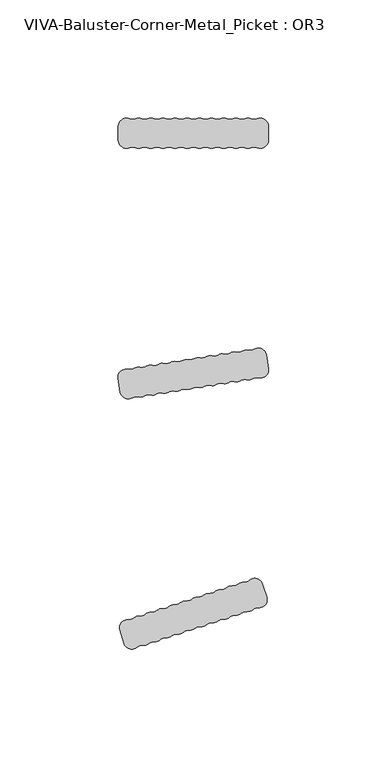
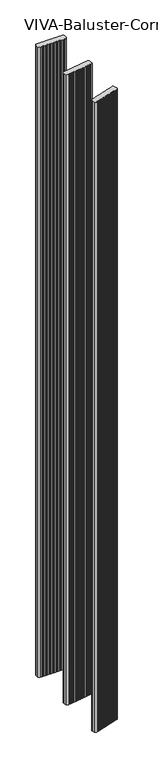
"""IFC4 building model written with IfcOpenShell, lengths in millimetres: railing geometry, VIVA-Baluster-Corner-Metal_Picket : OR3."""

from ifc_helpers import new_model, si_unit, point, frame, frame_2d, origin, place, context, project, spatial, polyline, circle_curve, trimmed, segment, composite_curve, outline, extrude, source, transform, mapped, element, save


def viva_baluster_corner_metal_picket_or3_0ca7091a(model_context):
    return source(origin(), model_context, "Body", "SweptSolid", [
        extrude(outline(composite_curve([segment(polyline([(54.1877137, 92.323752), (55.9877943, 86.7836736)]), True, "CONTINUOUS"), segment(trimmed(circle_curve(frame_2d((52.7186246, 85.721456)), 3.4374084), [point((55.9877943, 86.7836736))], [point((52.4796392, 82.2923653))], False, "CARTESIAN"), True, "CONTINUOUS"), segment(trimmed(circle_curve(frame_2d((52.2406537, 78.8632747)), 3.4374084), [point((52.4796392, 82.2923653))], [point((50.0317415, 81.4969951))], True, "CARTESIAN"), True, "CONTINUOUS"), segment(trimmed(circle_curve(frame_2d((47.8228292, 84.1307156)), 3.4374084), [point((50.0317415, 81.4969951))], [point((47.5838438, 80.701625))], False, "CARTESIAN"), True, "CONTINUOUS"), segment(trimmed(circle_curve(frame_2d((47.3448583, 77.2725343)), 3.4374084), [point((47.5838438, 80.701625))], [point((45.1359461, 79.9062548))], True, "CARTESIAN"), True, "CONTINUOUS"), segment(trimmed(circle_curve(frame_2d((42.9270338, 82.5399753)), 3.4374084), [point((45.1359461, 79.9062548))], [point((42.6880484, 79.1108846))], False, "CARTESIAN"), True, "CONTINUOUS"), segment(trimmed(circle_curve(frame_2d((42.4490629, 75.681794)), 3.4374084), [point((42.6880484, 79.1108846))], [point((40.2401507, 78.3155144))], True, "CARTESIAN"), True, "CONTINUOUS"), segment(trimmed(circle_curve(frame_2d((38.0312384, 80.9492349)), 3.4374084), [point((40.2401507, 78.3155144))], [point((37.792253, 77.5201443))], False, "CARTESIAN"), True, "CONTINUOUS"), segment(trimmed(circle_curve(frame_2d((37.5532675, 74.0910536)), 3.4374084), [point((37.792253, 77.5201443))], [point((35.3443553, 76.7247741))], True, "CARTESIAN"), True, "CONTINUOUS"), segment(trimmed(circle_curve(frame_2d((33.135443, 79.3584946)), 3.4374084), [point((35.3443553, 76.7247741))], [point((32.8964576, 75.9294039))], False, "CARTESIAN"), True, "CONTINUOUS"), segment(trimmed(circle_curve(frame_2d((32.6574721, 72.5003133)), 3.4374084), [point((32.8964576, 75.9294039))], [point((30.4485599, 75.1340337))], True, "CARTESIAN"), True, "CONTINUOUS"), segment(trimmed(circle_curve(frame_2d((28.2396476, 77.7677542)), 3.4374084), [point((30.4485599, 75.1340337))], [point((28.0006622, 74.3386636))], False, "CARTESIAN"), True, "CONTINUOUS"), segment(trimmed(circle_curve(frame_2d((27.7616767, 70.9095729)), 3.4374084), [point((28.0006622, 74.3386636))], [point((25.5527645, 73.5432934))], True, "CARTESIAN"), True, "CONTINUOUS"), segment(trimmed(circle_curve(frame_2d((23.3438522, 76.1770139)), 3.4374084), [point((25.5527645, 73.5432934))], [point((23.1048668, 72.7479232))], False, "CARTESIAN"), True, "CONTINUOUS"), segment(trimmed(circle_curve(frame_2d((22.8658813, 69.3188326)), 3.4374084), [point((23.1048668, 72.7479232))], [point((20.6569691, 71.952553))], True, "CARTESIAN"), True, "CONTINUOUS"), segment(trimmed(circle_curve(frame_2d((18.4480568, 74.5862735)), 3.4374084), [point((20.6569691, 71.952553))], [point((18.2090714, 71.1571828))], False, "CARTESIAN"), True, "CONTINUOUS"), segment(trimmed(circle_curve(frame_2d((17.9700859, 67.7280922)), 3.4374084), [point((18.2090714, 71.1571828))], [point((15.7611737, 70.3618127))], True, "CARTESIAN"), True, "CONTINUOUS"), segment(trimmed(circle_curve(frame_2d((13.5522614, 72.9955331)), 3.4374084), [point((15.7611737, 70.3618127))], [point((13.313276, 69.5664425))], False, "CARTESIAN"), True, "CONTINUOUS"), segment(trimmed(circle_curve(frame_2d((13.0742905, 66.1373518)), 3.4374084), [point((13.313276, 69.5664425))], [point((10.8653783, 68.7710723))], True, "CARTESIAN"), True, "CONTINUOUS"), segment(trimmed(circle_curve(frame_2d((8.656466, 71.4047928)), 3.4374084), [point((10.8653783, 68.7710723))], [point((8.4174806, 67.9757021))], False, "CARTESIAN"), True, "CONTINUOUS"), segment(trimmed(circle_curve(frame_2d((8.1784951, 64.5466115)), 3.4374084), [point((8.4174806, 67.9757021))], [point((5.9695829, 67.180332))], True, "CARTESIAN"), True, "CONTINUOUS"), segment(trimmed(circle_curve(frame_2d((3.7606706, 69.8140524)), 3.4374084), [point((5.9695829, 67.180332))], [point((3.5216852, 66.3849618))], False, "CARTESIAN"), True, "CONTINUOUS"), segment(trimmed(circle_curve(frame_2d((3.2826997, 62.9558711)), 3.4374084), [point((3.5216852, 66.3849618))], [point((1.0737875, 65.5895916))], True, "CARTESIAN"), True, "CONTINUOUS"), segment(trimmed(circle_curve(frame_2d((-1.1351248, 68.2233121)), 3.4374084), [point((1.0737875, 65.5895916))], [point((-4.4042945, 67.1610945))], False, "CARTESIAN"), True, "CONTINUOUS"), segment(polyline([(-4.4042945, 67.1610945), (-6.204375, 72.7011728)]), True, "CONTINUOUS"), segment(trimmed(circle_curve(frame_2d((-2.9352053, 73.7633905)), 3.4374084), [point((-6.204375, 72.7011728))], [point((-2.6962199, 77.1924811))], False, "CARTESIAN"), True, "CONTINUOUS"), segment(trimmed(circle_curve(frame_2d((-2.4572344, 80.6215718)), 3.4374084), [point((-2.6962199, 77.1924811))], [point((-0.2483222, 77.9878513))], True, "CARTESIAN"), True, "CONTINUOUS"), segment(trimmed(circle_curve(frame_2d((1.9605901, 75.3541308)), 3.4374084), [point((-0.2483222, 77.9878513))], [point((2.1995755, 78.7832215))], False, "CARTESIAN"), True, "CONTINUOUS"), segment(trimmed(circle_curve(frame_2d((2.438561, 82.2123121)), 3.4374084), [point((2.1995755, 78.7832215))], [point((4.6474732, 79.5785916))], True, "CARTESIAN"), True, "CONTINUOUS"), segment(trimmed(circle_curve(frame_2d((6.8563855, 76.9448712)), 3.4374084), [point((4.6474732, 79.5785916))], [point((7.0953709, 80.3739618))], False, "CARTESIAN"), True, "CONTINUOUS"), segment(trimmed(circle_curve(frame_2d((7.3343564, 83.8030525)), 3.4374084), [point((7.0953709, 80.3739618))], [point((9.5432686, 81.169332))], True, "CARTESIAN"), True, "CONTINUOUS"), segment(trimmed(circle_curve(frame_2d((11.7521809, 78.5356115)), 3.4374084), [point((9.5432686, 81.169332))], [point((11.9911663, 81.9647022))], False, "CARTESIAN"), True, "CONTINUOUS"), segment(trimmed(circle_curve(frame_2d((12.2301518, 85.3937928)), 3.4374084), [point((11.9911663, 81.9647022))], [point((14.439064, 82.7600723))], True, "CARTESIAN"), True, "CONTINUOUS"), segment(trimmed(circle_curve(frame_2d((16.6479763, 80.1263519)), 3.4374084), [point((14.439064, 82.7600723))], [point((16.8869617, 83.5554425))], False, "CARTESIAN"), True, "CONTINUOUS"), segment(trimmed(circle_curve(frame_2d((17.1259472, 86.9845332)), 3.4374084), [point((16.8869617, 83.5554425))], [point((19.3348594, 84.3508127))], True, "CARTESIAN"), True, "CONTINUOUS"), segment(trimmed(circle_curve(frame_2d((21.5437717, 81.7170922)), 3.4374084), [point((19.3348594, 84.3508127))], [point((21.7827571, 85.1461829))], False, "CARTESIAN"), True, "CONTINUOUS"), segment(trimmed(circle_curve(frame_2d((22.0217426, 88.5752735)), 3.4374084), [point((21.7827571, 85.1461829))], [point((24.2306548, 85.9415531))], True, "CARTESIAN"), True, "CONTINUOUS"), segment(trimmed(circle_curve(frame_2d((26.4395671, 83.3078326)), 3.4374084), [point((24.2306548, 85.9415531))], [point((26.6785525, 86.7369232))], False, "CARTESIAN"), True, "CONTINUOUS"), segment(trimmed(circle_curve(frame_2d((26.917538, 90.1660139)), 3.4374084), [point((26.6785525, 86.7369232))], [point((29.1264502, 87.5322934))], True, "CARTESIAN"), True, "CONTINUOUS"), segment(trimmed(circle_curve(frame_2d((31.3353625, 84.8985729)), 3.4374084), [point((29.1264502, 87.5322934))], [point((31.5743479, 88.3276636))], False, "CARTESIAN"), True, "CONTINUOUS"), segment(trimmed(circle_curve(frame_2d((31.8133334, 91.7567542)), 3.4374084), [point((31.5743479, 88.3276636))], [point((34.0222456, 89.1230338))], True, "CARTESIAN"), True, "CONTINUOUS"), segment(trimmed(circle_curve(frame_2d((36.2311579, 86.4893133)), 3.4374084), [point((34.0222456, 89.1230338))], [point((36.4701433, 89.9184039))], False, "CARTESIAN"), True, "CONTINUOUS"), segment(trimmed(circle_curve(frame_2d((36.7091288, 93.3474946)), 3.4374084), [point((36.4701433, 89.9184039))], [point((38.918041, 90.7137741))], True, "CARTESIAN"), True, "CONTINUOUS"), segment(trimmed(circle_curve(frame_2d((41.1269533, 88.0800536)), 3.4374084), [point((38.918041, 90.7137741))], [point((41.3659387, 91.5091443))], False, "CARTESIAN"), True, "CONTINUOUS"), segment(trimmed(circle_curve(frame_2d((41.6049242, 94.9382349)), 3.4374084), [point((41.3659387, 91.5091443))], [point((43.8138364, 92.3045145))], True, "CARTESIAN"), True, "CONTINUOUS"), segment(trimmed(circle_curve(frame_2d((46.0227487, 89.670794)), 3.4374084), [point((43.8138364, 92.3045145))], [point((46.2617341, 93.0998846))], False, "CARTESIAN"), True, "CONTINUOUS"), segment(trimmed(circle_curve(frame_2d((46.5007196, 96.5289753)), 3.4374084), [point((46.2617341, 93.0998846))], [point((48.7096318, 93.8952548))], True, "CARTESIAN"), True, "CONTINUOUS"), segment(trimmed(circle_curve(frame_2d((50.9185441, 91.2615344)), 3.4374084), [point((48.7096318, 93.8952548))], [point((54.1877137, 92.323752))], False, "CARTESIAN"), True, "CONTINUOUS")], self_intersect=False)), frame((0.0, 0.0, -245.8945017), z_axis=(0.0, 0.0, 1.0), x_axis=(1.0, 0.0, 0.0)), (0.0, 0.0, 1.0), 1465.0945017),
        extrude(outline(composite_curve([segment(trimmed(circle_curve(frame_2d((52.4000965, 188.6482211)), 3.4374084), [point((50.6303843, 191.5950661))], [point((55.7951848, 189.1859502))], False, "CARTESIAN"), True, "CONTINUOUS"), segment(polyline([(55.7951848, 189.1859502), (56.7064442, 183.4324848)]), True, "CONTINUOUS"), segment(trimmed(circle_curve(frame_2d((53.3113559, 182.8947556)), 3.4374084), [point((56.7064442, 183.4324848))], [point((52.5388848, 179.5452683))], False, "CARTESIAN"), True, "CONTINUOUS"), segment(trimmed(circle_curve(frame_2d((51.7664137, 176.195781)), 3.4374084), [point((52.5388848, 179.5452683))], [point((49.9967015, 179.142626))], True, "CARTESIAN"), True, "CONTINUOUS"), segment(trimmed(circle_curve(frame_2d((48.2269893, 182.089471)), 3.4374084), [point((49.9967015, 179.142626))], [point((47.4545181, 178.7399837))], False, "CARTESIAN"), True, "CONTINUOUS"), segment(trimmed(circle_curve(frame_2d((46.682047, 175.3904965)), 3.4374084), [point((47.4545181, 178.7399837))], [point((44.9123348, 178.3373415))], True, "CARTESIAN"), True, "CONTINUOUS"), segment(trimmed(circle_curve(frame_2d((43.1426226, 181.2841865)), 3.4374084), [point((44.9123348, 178.3373415))], [point((42.3701515, 177.9346992))], False, "CARTESIAN"), True, "CONTINUOUS"), segment(trimmed(circle_curve(frame_2d((41.5976804, 174.5852119)), 3.4374084), [point((42.3701515, 177.9346992))], [point((39.8279682, 177.5320569))], True, "CARTESIAN"), True, "CONTINUOUS"), segment(trimmed(circle_curve(frame_2d((38.058256, 180.4789019)), 3.4374084), [point((39.8279682, 177.5320569))], [point((37.2857848, 177.1294146))], False, "CARTESIAN"), True, "CONTINUOUS"), segment(trimmed(circle_curve(frame_2d((36.5133137, 173.7799273)), 3.4374084), [point((37.2857848, 177.1294146))], [point((34.7436015, 176.7267723))], True, "CARTESIAN"), True, "CONTINUOUS"), segment(trimmed(circle_curve(frame_2d((32.9738893, 179.6736173)), 3.4374084), [point((34.7436015, 176.7267723))], [point((32.2014182, 176.32413))], False, "CARTESIAN"), True, "CONTINUOUS"), segment(trimmed(circle_curve(frame_2d((31.4289471, 172.9746428)), 3.4374084), [point((32.2014182, 176.32413))], [point((29.6592349, 175.9214878))], True, "CARTESIAN"), True, "CONTINUOUS"), segment(trimmed(circle_curve(frame_2d((27.8895227, 178.8683328)), 3.4374084), [point((29.6592349, 175.9214878))], [point((27.1170515, 175.5188455))], False, "CARTESIAN"), True, "CONTINUOUS"), segment(trimmed(circle_curve(frame_2d((26.3445804, 172.1693582)), 3.4374084), [point((27.1170515, 175.5188455))], [point((24.5748682, 175.1162032))], True, "CARTESIAN"), True, "CONTINUOUS"), segment(trimmed(circle_curve(frame_2d((22.805156, 178.0630482)), 3.4374084), [point((24.5748682, 175.1162032))], [point((22.0326849, 174.7135609))], False, "CARTESIAN"), True, "CONTINUOUS"), segment(trimmed(circle_curve(frame_2d((21.2602138, 171.3640736)), 3.4374084), [point((22.0326849, 174.7135609))], [point((19.4905016, 174.3109186))], True, "CARTESIAN"), True, "CONTINUOUS"), segment(trimmed(circle_curve(frame_2d((17.7207894, 177.2577636)), 3.4374084), [point((19.4905016, 174.3109186))], [point((16.9483182, 173.9082764))], False, "CARTESIAN"), True, "CONTINUOUS"), segment(trimmed(circle_curve(frame_2d((16.1758471, 170.5587891)), 3.4374084), [point((16.9483182, 173.9082764))], [point((14.4061349, 173.5056341))], True, "CARTESIAN"), True, "CONTINUOUS"), segment(trimmed(circle_curve(frame_2d((12.6364227, 176.4524791)), 3.4374084), [point((14.4061349, 173.5056341))], [point((11.8639516, 173.1029918))], False, "CARTESIAN"), True, "CONTINUOUS"), segment(trimmed(circle_curve(frame_2d((11.0914805, 169.7535045)), 3.4374084), [point((11.8639516, 173.1029918))], [point((9.3217683, 172.7003495))], True, "CARTESIAN"), True, "CONTINUOUS"), segment(trimmed(circle_curve(frame_2d((7.5520561, 175.6471945)), 3.4374084), [point((9.3217683, 172.7003495))], [point((6.7795849, 172.2977072))], False, "CARTESIAN"), True, "CONTINUOUS"), segment(trimmed(circle_curve(frame_2d((6.0071138, 168.9482199)), 3.4374084), [point((6.7795849, 172.2977072))], [point((4.2374016, 171.8950649))], True, "CARTESIAN"), True, "CONTINUOUS"), segment(trimmed(circle_curve(frame_2d((2.4676894, 174.8419099)), 3.4374084), [point((4.2374016, 171.8950649))], [point((1.6952183, 171.4924227))], False, "CARTESIAN"), True, "CONTINUOUS"), segment(trimmed(circle_curve(frame_2d((0.9227472, 168.1429354)), 3.4374084), [point((1.6952183, 171.4924227))], [point((-0.846965, 171.0897804))], True, "CARTESIAN"), True, "CONTINUOUS"), segment(trimmed(circle_curve(frame_2d((-2.6166772, 174.0366254)), 3.4374084), [point((-0.846965, 171.0897804))], [point((-6.0117655, 173.4988962))], False, "CARTESIAN"), True, "CONTINUOUS"), segment(polyline([(-6.0117655, 173.4988962), (-6.9230249, 179.2523617)]), True, "CONTINUOUS"), segment(trimmed(circle_curve(frame_2d((-3.5279366, 179.7900908)), 3.4374084), [point((-6.9230249, 179.2523617))], [point((-2.7554655, 183.1395781))], False, "CARTESIAN"), True, "CONTINUOUS"), segment(trimmed(circle_curve(frame_2d((-1.9829944, 186.4890654)), 3.4374084), [point((-2.7554655, 183.1395781))], [point((-0.2132822, 183.5422204))], True, "CARTESIAN"), True, "CONTINUOUS"), segment(trimmed(circle_curve(frame_2d((1.55643, 180.5953754)), 3.4374084), [point((-0.2132822, 183.5422204))], [point((2.3289011, 183.9448627))], False, "CARTESIAN"), True, "CONTINUOUS"), segment(trimmed(circle_curve(frame_2d((3.1013723, 187.29435)), 3.4374084), [point((2.3289011, 183.9448627))], [point((4.8710845, 184.347505))], True, "CARTESIAN"), True, "CONTINUOUS"), segment(trimmed(circle_curve(frame_2d((6.6407967, 181.40066)), 3.4374084), [point((4.8710845, 184.347505))], [point((7.4132678, 184.7501473))], False, "CARTESIAN"), True, "CONTINUOUS"), segment(trimmed(circle_curve(frame_2d((8.1857389, 188.0996345)), 3.4374084), [point((7.4132678, 184.7501473))], [point((9.9554511, 185.1527895))], True, "CARTESIAN"), True, "CONTINUOUS"), segment(trimmed(circle_curve(frame_2d((11.7251633, 182.2059445)), 3.4374084), [point((9.9554511, 185.1527895))], [point((12.4976344, 185.5554318))], False, "CARTESIAN"), True, "CONTINUOUS"), segment(trimmed(circle_curve(frame_2d((13.2701056, 188.9049191)), 3.4374084), [point((12.4976344, 185.5554318))], [point((15.0398178, 185.9580741))], True, "CARTESIAN"), True, "CONTINUOUS"), segment(trimmed(circle_curve(frame_2d((16.80953, 183.0112291)), 3.4374084), [point((15.0398178, 185.9580741))], [point((17.5820011, 186.3607164))], False, "CARTESIAN"), True, "CONTINUOUS"), segment(trimmed(circle_curve(frame_2d((18.3544722, 189.7102037)), 3.4374084), [point((17.5820011, 186.3607164))], [point((20.1241844, 186.7633587))], True, "CARTESIAN"), True, "CONTINUOUS"), segment(trimmed(circle_curve(frame_2d((21.8938966, 183.8165137)), 3.4374084), [point((20.1241844, 186.7633587))], [point((22.6663677, 187.166001))], False, "CARTESIAN"), True, "CONTINUOUS"), segment(trimmed(circle_curve(frame_2d((23.4388389, 190.5154882)), 3.4374084), [point((22.6663677, 187.166001))], [point((25.2085511, 187.5686432))], True, "CARTESIAN"), True, "CONTINUOUS"), segment(trimmed(circle_curve(frame_2d((26.9782633, 184.6217982)), 3.4374084), [point((25.2085511, 187.5686432))], [point((27.7507344, 187.9712855))], False, "CARTESIAN"), True, "CONTINUOUS"), segment(trimmed(circle_curve(frame_2d((28.5232055, 191.3207728)), 3.4374084), [point((27.7507344, 187.9712855))], [point((30.2929177, 188.3739278))], True, "CARTESIAN"), True, "CONTINUOUS"), segment(trimmed(circle_curve(frame_2d((32.0626299, 185.4270828)), 3.4374084), [point((30.2929177, 188.3739278))], [point((32.835101, 188.7765701))], False, "CARTESIAN"), True, "CONTINUOUS"), segment(trimmed(circle_curve(frame_2d((33.6075722, 192.1260574)), 3.4374084), [point((32.835101, 188.7765701))], [point((35.3772844, 189.1792124))], True, "CARTESIAN"), True, "CONTINUOUS"), segment(trimmed(circle_curve(frame_2d((37.1469966, 186.2323674)), 3.4374084), [point((35.3772844, 189.1792124))], [point((37.9194677, 189.5818547))], False, "CARTESIAN"), True, "CONTINUOUS"), segment(trimmed(circle_curve(frame_2d((38.6919388, 192.9313419)), 3.4374084), [point((37.9194677, 189.5818547))], [point((40.461651, 189.9844969))], True, "CARTESIAN"), True, "CONTINUOUS"), segment(trimmed(circle_curve(frame_2d((42.2313632, 187.0376519)), 3.4374084), [point((40.461651, 189.9844969))], [point((43.0038343, 190.3871392))], False, "CARTESIAN"), True, "CONTINUOUS"), segment(trimmed(circle_curve(frame_2d((43.7763055, 193.7366265)), 3.4374084), [point((43.0038343, 190.3871392))], [point((45.5460177, 190.7897815))], True, "CARTESIAN"), True, "CONTINUOUS"), segment(trimmed(circle_curve(frame_2d((47.3157299, 187.8429365)), 3.4374084), [point((45.5460177, 190.7897815))], [point((48.088201, 191.1924238))], False, "CARTESIAN"), True, "CONTINUOUS"), segment(trimmed(circle_curve(frame_2d((48.8606721, 194.5419111)), 3.4374084), [point((48.088201, 191.1924238))], [point((50.6303843, 191.5950661))], True, "CARTESIAN"), True, "CONTINUOUS")], self_intersect=False)), frame((0.0, 0.0, -245.8945017), z_axis=(0.0, 0.0, 1.0), x_axis=(1.0, 0.0, 0.0)), (0.0, 0.0, 1.0), 1465.0945017),
        extrude(outline(composite_curve([segment(trimmed(circle_curve(frame_2d((53.2043012, 285.8550148)), 3.4374084), [point((51.9173652, 289.0424232))], [point((56.6417096, 285.8550148))], False, "CARTESIAN"), True, "CONTINUOUS"), segment(polyline([(56.6417096, 285.8550148), (56.6417096, 280.0298317)]), True, "CONTINUOUS"), segment(trimmed(circle_curve(frame_2d((53.2043012, 280.0298317)), 3.4374084), [point((56.6417096, 280.0298317))], [point((51.9173652, 276.8424232))], False, "CARTESIAN"), True, "CONTINUOUS"), segment(trimmed(circle_curve(frame_2d((50.6304292, 273.6550148)), 3.4374084), [point((51.9173652, 276.8424232))], [point((49.3434933, 276.8424232))], True, "CARTESIAN"), True, "CONTINUOUS"), segment(trimmed(circle_curve(frame_2d((48.0565573, 280.0298317)), 3.4374084), [point((49.3434933, 276.8424232))], [point((46.7696213, 276.8424232))], False, "CARTESIAN"), True, "CONTINUOUS"), segment(trimmed(circle_curve(frame_2d((45.4826853, 273.6550148)), 3.4374084), [point((46.7696213, 276.8424232))], [point((44.1957493, 276.8424232))], True, "CARTESIAN"), True, "CONTINUOUS"), segment(trimmed(circle_curve(frame_2d((42.9088134, 280.0298317)), 3.4374084), [point((44.1957493, 276.8424232))], [point((41.6218774, 276.8424232))], False, "CARTESIAN"), True, "CONTINUOUS"), segment(trimmed(circle_curve(frame_2d((40.3349414, 273.6550148)), 3.4374084), [point((41.6218774, 276.8424232))], [point((39.0480054, 276.8424232))], True, "CARTESIAN"), True, "CONTINUOUS"), segment(trimmed(circle_curve(frame_2d((37.7610694, 280.0298317)), 3.4374084), [point((39.0480054, 276.8424232))], [point((36.4741335, 276.8424232))], False, "CARTESIAN"), True, "CONTINUOUS"), segment(trimmed(circle_curve(frame_2d((35.1871975, 273.6550148)), 3.4374084), [point((36.4741335, 276.8424232))], [point((33.9002615, 276.8424232))], True, "CARTESIAN"), True, "CONTINUOUS"), segment(trimmed(circle_curve(frame_2d((32.6133255, 280.0298317)), 3.4374084), [point((33.9002615, 276.8424232))], [point((31.3263895, 276.8424232))], False, "CARTESIAN"), True, "CONTINUOUS"), segment(trimmed(circle_curve(frame_2d((30.0394536, 273.6550148)), 3.4374084), [point((31.3263895, 276.8424232))], [point((28.7525176, 276.8424232))], True, "CARTESIAN"), True, "CONTINUOUS"), segment(trimmed(circle_curve(frame_2d((27.4655816, 280.0298317)), 3.4374084), [point((28.7525176, 276.8424232))], [point((26.1786456, 276.8424232))], False, "CARTESIAN"), True, "CONTINUOUS"), segment(trimmed(circle_curve(frame_2d((24.8917096, 273.6550148)), 3.4374084), [point((26.1786456, 276.8424232))], [point((23.6047737, 276.8424232))], True, "CARTESIAN"), True, "CONTINUOUS"), segment(trimmed(circle_curve(frame_2d((22.3178377, 280.0298317)), 3.4374084), [point((23.6047737, 276.8424232))], [point((21.0309017, 276.8424232))], False, "CARTESIAN"), True, "CONTINUOUS"), segment(trimmed(circle_curve(frame_2d((19.7439657, 273.6550148)), 3.4374084), [point((21.0309017, 276.8424232))], [point((18.4570297, 276.8424232))], True, "CARTESIAN"), True, "CONTINUOUS"), segment(trimmed(circle_curve(frame_2d((17.1700938, 280.0298317)), 3.4374084), [point((18.4570297, 276.8424232))], [point((15.8831578, 276.8424232))], False, "CARTESIAN"), True, "CONTINUOUS"), segment(trimmed(circle_curve(frame_2d((14.5962218, 273.6550148)), 3.4374084), [point((15.8831578, 276.8424232))], [point((13.3092858, 276.8424232))], True, "CARTESIAN"), True, "CONTINUOUS"), segment(trimmed(circle_curve(frame_2d((12.0223498, 280.0298317)), 3.4374084), [point((13.3092858, 276.8424232))], [point((10.7354138, 276.8424232))], False, "CARTESIAN"), True, "CONTINUOUS"), segment(trimmed(circle_curve(frame_2d((9.4484779, 273.6550148)), 3.4374084), [point((10.7354138, 276.8424232))], [point((8.1615419, 276.8424232))], True, "CARTESIAN"), True, "CONTINUOUS"), segment(trimmed(circle_curve(frame_2d((6.8746059, 280.0298317)), 3.4374084), [point((8.1615419, 276.8424232))], [point((5.5876699, 276.8424232))], False, "CARTESIAN"), True, "CONTINUOUS"), segment(trimmed(circle_curve(frame_2d((4.3007339, 273.6550148)), 3.4374084), [point((5.5876699, 276.8424232))], [point((3.013798, 276.8424232))], True, "CARTESIAN"), True, "CONTINUOUS"), segment(trimmed(circle_curve(frame_2d((1.726862, 280.0298317)), 3.4374084), [point((3.013798, 276.8424232))], [point((0.439926, 276.8424232))], False, "CARTESIAN"), True, "CONTINUOUS"), segment(trimmed(circle_curve(frame_2d((-0.84701, 273.6550148)), 3.4374084), [point((0.439926, 276.8424232))], [point((-2.133946, 276.8424232))], True, "CARTESIAN"), True, "CONTINUOUS"), segment(trimmed(circle_curve(frame_2d((-3.4208819, 280.0298317)), 3.4374084), [point((-2.133946, 276.8424232))], [point((-6.8582904, 280.0298317))], False, "CARTESIAN"), True, "CONTINUOUS"), segment(polyline([(-6.8582904, 280.0298317), (-6.8582904, 285.8550148)]), True, "CONTINUOUS"), segment(trimmed(circle_curve(frame_2d((-3.4208819, 285.8550148)), 3.4374084), [point((-6.8582904, 285.8550148))], [point((-2.133946, 289.0424232))], False, "CARTESIAN"), True, "CONTINUOUS"), segment(trimmed(circle_curve(frame_2d((-0.84701, 292.2298316)), 3.4374084), [point((-2.133946, 289.0424232))], [point((0.439926, 289.0424232))], True, "CARTESIAN"), True, "CONTINUOUS"), segment(trimmed(circle_curve(frame_2d((1.726862, 285.8550148)), 3.4374084), [point((0.439926, 289.0424232))], [point((3.013798, 289.0424232))], False, "CARTESIAN"), True, "CONTINUOUS"), segment(trimmed(circle_curve(frame_2d((4.3007339, 292.2298316)), 3.4374084), [point((3.013798, 289.0424232))], [point((5.5876699, 289.0424232))], True, "CARTESIAN"), True, "CONTINUOUS"), segment(trimmed(circle_curve(frame_2d((6.8746059, 285.8550148)), 3.4374084), [point((5.5876699, 289.0424232))], [point((8.1615419, 289.0424232))], False, "CARTESIAN"), True, "CONTINUOUS"), segment(trimmed(circle_curve(frame_2d((9.4484779, 292.2298317)), 3.4374084), [point((8.1615419, 289.0424232))], [point((10.7354139, 289.0424232))], True, "CARTESIAN"), True, "CONTINUOUS"), segment(trimmed(circle_curve(frame_2d((12.0223498, 285.8550148)), 3.4374084), [point((10.7354139, 289.0424232))], [point((13.3092858, 289.0424232))], False, "CARTESIAN"), True, "CONTINUOUS"), segment(trimmed(circle_curve(frame_2d((14.5962218, 292.2298317)), 3.4374084), [point((13.3092858, 289.0424232))], [point((15.8831578, 289.0424232))], True, "CARTESIAN"), True, "CONTINUOUS"), segment(trimmed(circle_curve(frame_2d((17.1700938, 285.8550148)), 3.4374084), [point((15.8831578, 289.0424232))], [point((18.4570297, 289.0424232))], False, "CARTESIAN"), True, "CONTINUOUS"), segment(trimmed(circle_curve(frame_2d((19.7439657, 292.2298317)), 3.4374084), [point((18.4570297, 289.0424232))], [point((21.0309017, 289.0424232))], True, "CARTESIAN"), True, "CONTINUOUS"), segment(trimmed(circle_curve(frame_2d((22.3178377, 285.8550148)), 3.4374084), [point((21.0309017, 289.0424232))], [point((23.6047737, 289.0424232))], False, "CARTESIAN"), True, "CONTINUOUS"), segment(trimmed(circle_curve(frame_2d((24.8917096, 292.2298317)), 3.4374084), [point((23.6047737, 289.0424232))], [point((26.1786456, 289.0424232))], True, "CARTESIAN"), True, "CONTINUOUS"), segment(trimmed(circle_curve(frame_2d((27.4655816, 285.8550148)), 3.4374084), [point((26.1786456, 289.0424232))], [point((28.7525176, 289.0424232))], False, "CARTESIAN"), True, "CONTINUOUS"), segment(trimmed(circle_curve(frame_2d((30.0394536, 292.2298317)), 3.4374084), [point((28.7525176, 289.0424232))], [point((31.3263895, 289.0424232))], True, "CARTESIAN"), True, "CONTINUOUS"), segment(trimmed(circle_curve(frame_2d((32.6133255, 285.8550148)), 3.4374084), [point((31.3263895, 289.0424232))], [point((33.9002615, 289.0424232))], False, "CARTESIAN"), True, "CONTINUOUS"), segment(trimmed(circle_curve(frame_2d((35.1871975, 292.2298317)), 3.4374084), [point((33.9002615, 289.0424232))], [point((36.4741335, 289.0424232))], True, "CARTESIAN"), True, "CONTINUOUS"), segment(trimmed(circle_curve(frame_2d((37.7610694, 285.8550148)), 3.4374084), [point((36.4741335, 289.0424232))], [point((39.0480054, 289.0424232))], False, "CARTESIAN"), True, "CONTINUOUS"), segment(trimmed(circle_curve(frame_2d((40.3349414, 292.2298317)), 3.4374084), [point((39.0480054, 289.0424232))], [point((41.6218774, 289.0424232))], True, "CARTESIAN"), True, "CONTINUOUS"), segment(trimmed(circle_curve(frame_2d((42.9088134, 285.8550148)), 3.4374084), [point((41.6218774, 289.0424232))], [point((44.1957493, 289.0424232))], False, "CARTESIAN"), True, "CONTINUOUS"), segment(trimmed(circle_curve(frame_2d((45.4826853, 292.2298317)), 3.4374084), [point((44.1957493, 289.0424232))], [point((46.7696213, 289.0424232))], True, "CARTESIAN"), True, "CONTINUOUS"), segment(trimmed(circle_curve(frame_2d((48.0565573, 285.8550148)), 3.4374084), [point((46.7696213, 289.0424232))], [point((49.3434933, 289.0424232))], False, "CARTESIAN"), True, "CONTINUOUS"), segment(trimmed(circle_curve(frame_2d((50.6304292, 292.2298317)), 3.4374084), [point((49.3434933, 289.0424232))], [point((51.9173652, 289.0424232))], True, "CARTESIAN"), True, "CONTINUOUS")], self_intersect=False)), frame((0.0, 0.0, -245.8945017), z_axis=(0.0, 0.0, 1.0), x_axis=(1.0, 0.0, 0.0)), (0.0, 0.0, 1.0), 1465.0945017),
    ])


if __name__ == "__main__":
    model = new_model("IFC4")
    model_context = context("Model", 3, world=origin())
    ifc_project = project(units=[si_unit("LENGTHUNIT", "METRE", prefix="MILLI")], contexts=[model_context])
    site = spatial("IfcSite", under=ifc_project)
    building = spatial("IfcBuilding", under=site)
    placement = place(None, origin())
    viva_baluster_corner_metal_picket_or3_shape = viva_baluster_corner_metal_picket_or3_0ca7091a(model_context)
    element("IfcRailing", 1, ObjectType="VIVA-Baluster-Corner-Metal_Picket : OR3", at=placement, inside=building, context=model_context, shape_type="MappedRepresentation", body=[
        mapped(viva_baluster_corner_metal_picket_or3_shape, transform((0.0, 0.0, 0.0), x_axis=(1.0, 0.0, 0.0), y_axis=(0.0, 1.0, 0.0), z_axis=(0.0, 0.0, 1.0))),
    ])
    save(model, "model.ifc")
